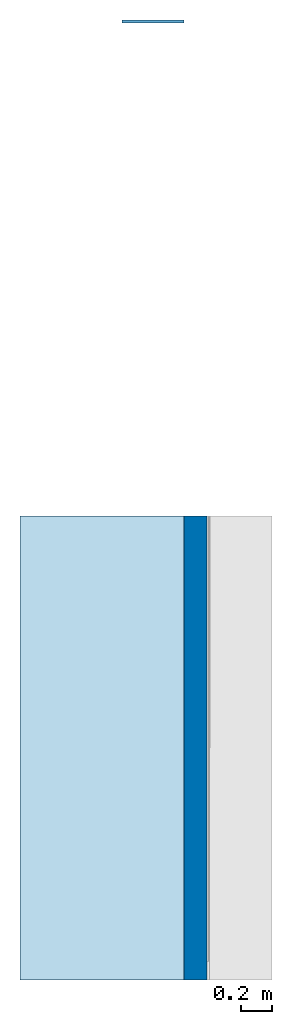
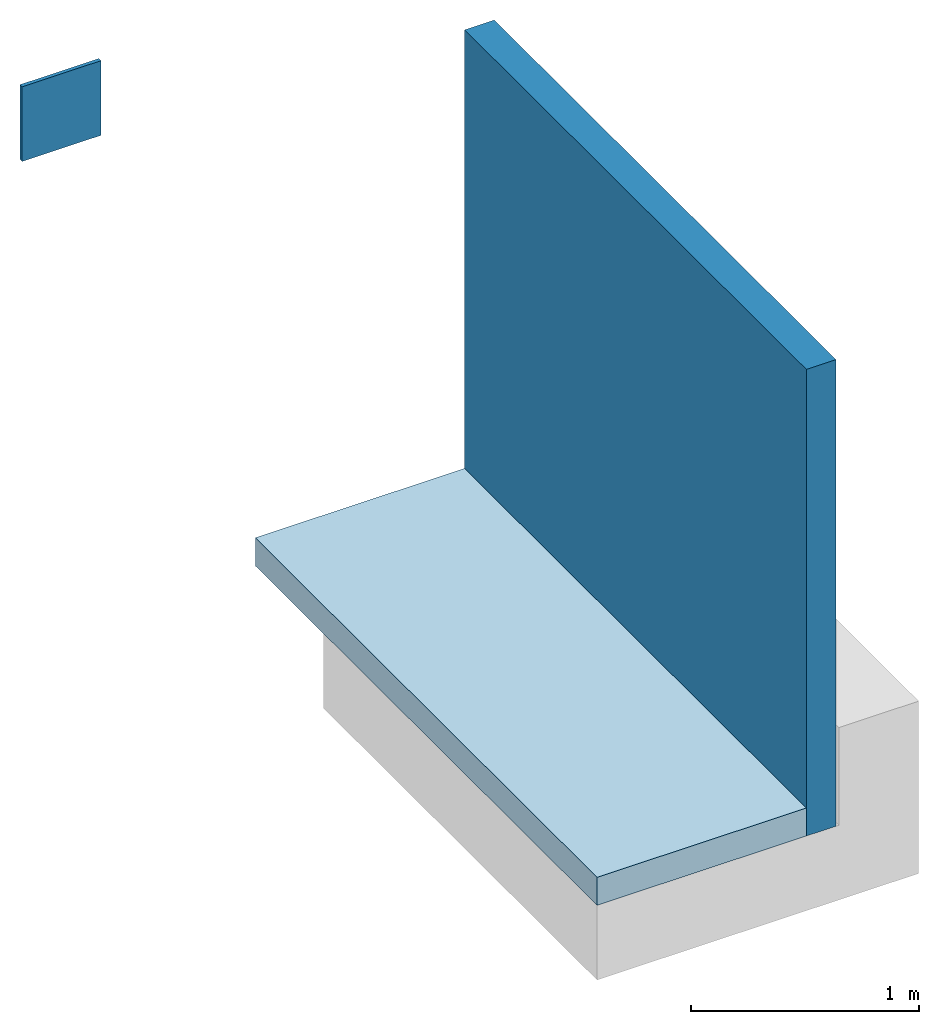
# One storey, part 1 of 2: 2 walls, 1 slab.
"""IFC2X3 building model written with IfcOpenShell, lengths in metres."""

from ifc_helpers import new_model, entity, si_unit, converted_unit, derived_unit, direction, frame, frame_2d, origin, place, context, subcontext, project, spatial, rectangle, extrude, material, layer, layer_set, layer_usage, type_object, element, save


model = new_model("IFC2X3")

# Units and contexts
model_context = context("Model", 3, precision=1e-05, world=origin(), true_north=direction((6.123031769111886e-17, 1.0)))
body_context = subcontext(model_context, "Body", "Model", "MODEL_VIEW")
ifc_project = project(units=[si_unit("LENGTHUNIT", "METRE"), si_unit("AREAUNIT", "SQUARE_METRE"), si_unit("VOLUMEUNIT", "CUBIC_METRE"), converted_unit("PLANEANGLEUNIT", "DEGREE", entity("IfcRatioMeasure", 0.017453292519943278), si_unit("PLANEANGLEUNIT", "RADIAN"), dimensions=[0, 0, 0, 0, 0, 0, 0]), si_unit("MASSUNIT", "GRAM", prefix="KILO"), derived_unit("MASSDENSITYUNIT", [(si_unit("MASSUNIT", "GRAM", prefix="KILO"), 1), (si_unit("LENGTHUNIT", "METRE"), -3)]), derived_unit("IONCONCENTRATIONUNIT", [(si_unit("MASSUNIT", "GRAM", prefix="KILO"), 1), (si_unit("LENGTHUNIT", "METRE"), -3)]), derived_unit("MOMENTOFINERTIAUNIT", [(si_unit("LENGTHUNIT", "METRE"), 4)]), si_unit("TIMEUNIT", "SECOND"), si_unit("FREQUENCYUNIT", "HERTZ"), si_unit("THERMODYNAMICTEMPERATUREUNIT", "DEGREE_CELSIUS"), derived_unit("THERMALTRANSMITTANCEUNIT", [(si_unit("MASSUNIT", "GRAM", prefix="KILO"), 1), (si_unit("THERMODYNAMICTEMPERATUREUNIT", "KELVIN"), -1), (si_unit("TIMEUNIT", "SECOND"), -3)]), derived_unit("THERMALCONDUCTANCEUNIT", [(si_unit("MASSUNIT", "GRAM", prefix="KILO"), 1), (si_unit("THERMODYNAMICTEMPERATUREUNIT", "KELVIN"), -1), (si_unit("TIMEUNIT", "SECOND"), -3), (si_unit("LENGTHUNIT", "METRE"), 1)]), derived_unit("VOLUMETRICFLOWRATEUNIT", [(si_unit("LENGTHUNIT", "METRE"), 3), (si_unit("TIMEUNIT", "SECOND"), -1)]), derived_unit("MASSFLOWRATEUNIT", [(si_unit("MASSUNIT", "GRAM", prefix="KILO"), 1), (si_unit("TIMEUNIT", "SECOND"), -1)]), derived_unit("ROTATIONALFREQUENCYUNIT", [(si_unit("TIMEUNIT", "SECOND"), -1)]), si_unit("ELECTRICCURRENTUNIT", "AMPERE"), si_unit("ELECTRICVOLTAGEUNIT", "VOLT"), si_unit("POWERUNIT", "WATT"), si_unit("FORCEUNIT", "NEWTON", prefix="KILO"), si_unit("ILLUMINANCEUNIT", "LUX"), si_unit("LUMINOUSFLUXUNIT", "LUMEN"), si_unit("LUMINOUSINTENSITYUNIT", "CANDELA"), derived_unit("USERDEFINED", [(si_unit("MASSUNIT", "GRAM", prefix="KILO"), -1), (si_unit("LENGTHUNIT", "METRE"), -2), (si_unit("TIMEUNIT", "SECOND"), 3), (si_unit("LUMINOUSFLUXUNIT", "LUMEN"), 1)]), derived_unit("USERDEFINED", [(si_unit("MASSUNIT", "GRAM", prefix="KILO"), 1), (si_unit("TIMEUNIT", "SECOND"), -3), (si_unit("LENGTHUNIT", "METRE"), 3), (si_unit("ELECTRICCURRENTUNIT", "AMPERE"), -2)]), derived_unit("SOUNDPOWERUNIT", [(si_unit("MASSUNIT", "GRAM", prefix="KILO"), 1), (si_unit("TIMEUNIT", "SECOND"), -3), (si_unit("LENGTHUNIT", "METRE"), 2)]), derived_unit("SOUNDPRESSUREUNIT", [(si_unit("MASSUNIT", "GRAM", prefix="KILO"), 1), (si_unit("LENGTHUNIT", "METRE"), -1), (si_unit("TIMEUNIT", "SECOND"), -2)]), derived_unit("LINEARVELOCITYUNIT", [(si_unit("LENGTHUNIT", "METRE"), 1), (si_unit("TIMEUNIT", "SECOND"), -1)]), si_unit("PRESSUREUNIT", "PASCAL"), derived_unit("USERDEFINED", [(si_unit("MASSUNIT", "GRAM", prefix="KILO"), 1), (si_unit("LENGTHUNIT", "METRE"), -2), (si_unit("TIMEUNIT", "SECOND"), -2)]), derived_unit("LINEARFORCEUNIT", [(si_unit("MASSUNIT", "GRAM", prefix="KILO"), 1), (si_unit("TIMEUNIT", "SECOND"), -2)]), derived_unit("PLANARFORCEUNIT", [(si_unit("MASSUNIT", "GRAM", prefix="KILO"), 1), (si_unit("LENGTHUNIT", "METRE"), -1), (si_unit("TIMEUNIT", "SECOND"), -2)]), derived_unit("SPECIFICHEATCAPACITYUNIT", [(si_unit("THERMODYNAMICTEMPERATUREUNIT", "KELVIN"), -1), (si_unit("LENGTHUNIT", "METRE"), 2), (si_unit("TIMEUNIT", "SECOND"), -2)]), derived_unit("HEATINGVALUEUNIT", [(si_unit("LENGTHUNIT", "METRE"), 2), (si_unit("TIMEUNIT", "SECOND"), -2)]), derived_unit("VAPORPERMEABILITYUNIT", [(si_unit("LENGTHUNIT", "METRE"), -1), (si_unit("TIMEUNIT", "SECOND"), 1)]), derived_unit("DYNAMICVISCOSITYUNIT", [(si_unit("MASSUNIT", "GRAM", prefix="KILO"), 1), (si_unit("TIMEUNIT", "SECOND"), -1), (si_unit("LENGTHUNIT", "METRE"), -1)]), derived_unit("THERMALEXPANSIONCOEFFICIENTUNIT", [(si_unit("THERMODYNAMICTEMPERATUREUNIT", "KELVIN"), -1)]), derived_unit("MODULUSOFELASTICITYUNIT", [(si_unit("MASSUNIT", "GRAM", prefix="KILO"), 1), (si_unit("LENGTHUNIT", "METRE"), -1), (si_unit("TIMEUNIT", "SECOND"), -2)]), derived_unit("ISOTHERMALMOISTURECAPACITYUNIT", [(si_unit("LENGTHUNIT", "METRE"), 3), (si_unit("MASSUNIT", "GRAM", prefix="KILO"), -1)]), derived_unit("MOISTUREDIFFUSIVITYUNIT", [(si_unit("TIMEUNIT", "SECOND"), -1), (si_unit("LENGTHUNIT", "METRE"), 2)])], contexts=[model_context])

# Site, building, storey
site_placement = place(None, origin())
site = spatial("IfcSite", under=ifc_project, at=site_placement, Name="Default", CompositionType="ELEMENT")
building_placement = place(site_placement, origin())
building = spatial("IfcBuilding", under=site, at=building_placement, CompositionType="ELEMENT")
storey_placement = place(building_placement, frame((0.0, 0.0, -0.0025237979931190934)))
storey = spatial("IfcBuildingStorey", under=building, at=storey_placement, Name="ARQ Térreo", CompositionType="ELEMENT", Elevation=-0.0025237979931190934)

# Slab
ifc_material_1 = material(Name="#concreto")
ifc_layer_1 = layer(ifc_material_1, 0.14999999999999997)
ifc_layer_set_1 = layer_set([ifc_layer_1], Name="Piso:Genérico 150 mm")
ifc_layer_usage_1 = layer_usage(ifc_layer_set_1, "AXIS3", "POSITIVE", 0.0)
slab_type = type_object("IfcSlabType", Name="Piso:Genérico 150 mm", PredefinedType="FLOOR", material=ifc_layer_set_1)
slab_placement = place(storey_placement, origin())
element("IfcSlab", 1, at=slab_placement, inside=storey, type_object=slab_type, material=ifc_layer_usage_1, Name="Piso:Genérico 150 mm", ObjectType="Piso:Genérico 150 mm", PredefinedType="FLOOR", context=body_context, shape_type="SweptSolid", body=[
    extrude(rectangle(XDim=3.0000000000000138, YDim=1.0608100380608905, at=frame_2d((0.0, -5.551115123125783e-17), x_axis=(1.0, 0.0))), frame((-1.0323754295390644, -1.3541299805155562, 0.14999999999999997), z_axis=(0.0, 0.0, -1.0), x_axis=(0.0, 1.0, 0.0)), (0.0, 0.0, 1.0), 0.14999999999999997),
])

# Walls
ifc_layer_2 = layer(ifc_material_1, 0.14999999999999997)
ifc_layer_set_2 = layer_set([ifc_layer_2], Name="Parede básica:Parede básica:Parede Concreto")
ifc_layer_usage_2 = layer_usage(ifc_layer_set_2, "AXIS2", "NEGATIVE", 0.07499999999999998)
wall_type_1 = type_object("IfcWallType", Name="Parede básica:Parede básica:Parede Concreto", PredefinedType="STANDARD", material=ifc_layer_set_2)
wall_1_placement = place(storey_placement, frame((-0.4269704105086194, 0.14587001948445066, 0.0), z_axis=(0.0, 0.0, 1.0), x_axis=(0.0, -1.0, 0.0)))
element("IfcWallStandardCase", 2, at=wall_1_placement, inside=storey, type_object=wall_type_1, material=ifc_layer_usage_2, Name="Parede básica:Parede Concreto", ObjectType="Parede básica:Parede Concreto", context=body_context, shape_type="SweptSolid", body=[
    extrude(rectangle(XDim=2.9999999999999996, YDim=0.15000000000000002, at=frame_2d((1.4999999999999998, 0.0), x_axis=(-1.0, 0.0))), origin(), (0.0, 0.0, 1.0), 2.4999999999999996),
])
ifc_material_2 = material(Name="#Geotextil")
ifc_layer_3 = layer(ifc_material_2, 0.003)
ifc_material_3 = material(Name="#Chapisco")
ifc_layer_4 = layer(ifc_material_3, 0.0009999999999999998)
ifc_material_4 = material(Name="#Classic Poliéster")
ifc_layer_5 = layer(ifc_material_4, 0.003999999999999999)
ifc_material_5 = material(Name="#Primer")
ifc_layer_6 = layer(ifc_material_5, 0.0009999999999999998)
ifc_material_6 = material(Name="#argamassa")
ifc_layer_7 = layer(ifc_material_6, 0.01)
ifc_layer_set_3 = layer_set([ifc_layer_3, ifc_layer_4, ifc_layer_5, ifc_layer_6, ifc_layer_7], Name="Parede básica:IMPV_CLASSIC")
ifc_layer_usage_3 = layer_usage(ifc_layer_set_3, "AXIS2", "NEGATIVE", 0.009500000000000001)
wall_type_2 = type_object("IfcWallType", Name="Parede básica:IMPV_CLASSIC", PredefinedType="STANDARD", material=ifc_layer_set_3)
wall_2_placement = place(storey_placement, frame((-0.5019704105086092, 3.345870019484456, 0.0), z_axis=(0.0, 0.0, 1.0), x_axis=(-1.0, 0.0, 0.0)))
element("IfcWallStandardCase", 3, at=wall_2_placement, inside=storey, type_object=wall_type_2, material=ifc_layer_usage_3, Name="Parede básica:IMPV_VP7000", ObjectType="Parede básica:IMPV_VP7000", context=body_context, shape_type="SweptSolid", body=[
    extrude(rectangle(XDim=0.4000000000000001, YDim=0.01900000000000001, at=frame_2d((0.20000000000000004, 3.209238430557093e-17), x_axis=(-1.0, 0.0))), origin(), (0.0, 0.0, 1.0), 0.4),
])

save(model, "model.ifc")
